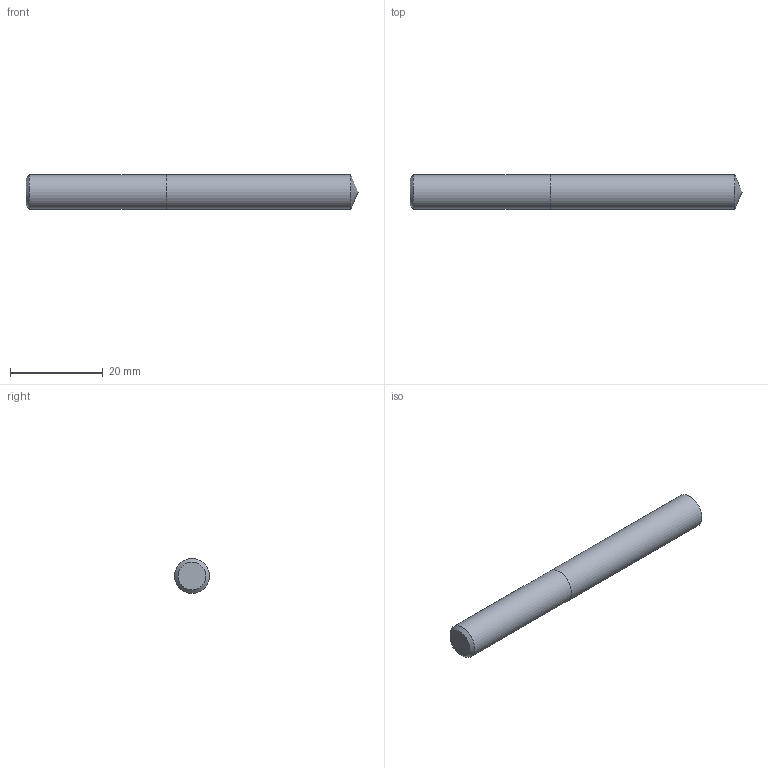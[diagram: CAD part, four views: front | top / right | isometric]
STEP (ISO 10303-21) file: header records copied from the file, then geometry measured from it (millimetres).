
FILE_DESCRIPTION (( 'STEP AP214' ), '1' );
FILE_NAME ('03-2329.STEP', '2022-06-03T06:17:39', ( 'USER' ), ( '' ), 'SwSTEP 2.0', 'SolidWorks 2018', '' );
FILE_SCHEMA (( 'AUTOMOTIVE_DESIGN' ));
Length unit declared in the file: inch
Products named in the file (1): 03-2329
Bounding box: 71.4 x 7.49 x 7.49 mm (x, y, z)
Volume: 3096.8 mm3; surface area: 1813.2 mm2
Topology: 2 solids, 2 shells, 7 faces, 11 edges, 7 vertices
Faces by surface type: plane 3, cylinder 2, cone 2
Full cylindrical faces by diameter (mm): 7.493 x2
Entity records: 214 total; most frequent: DIRECTION 26, CARTESIAN_POINT 18, AXIS2_PLACEMENT_3D 13, ORIENTED_EDGE 10, EDGE_LOOP 10, FACE_OUTER_BOUND 9, UNCERTAINTY_MEASURE_WITH_UNIT 7, LENGTH_MEASURE_WITH_UNIT 7
